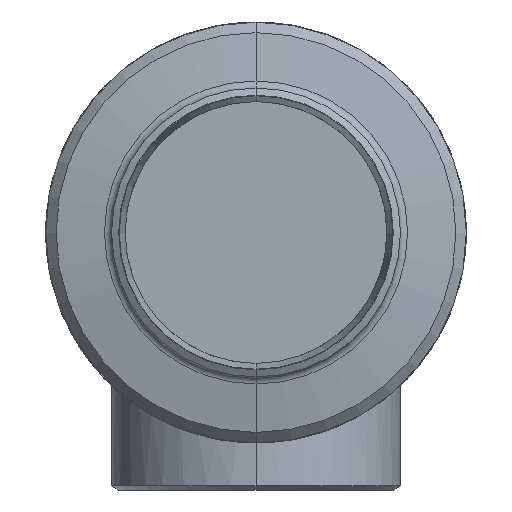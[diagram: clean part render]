
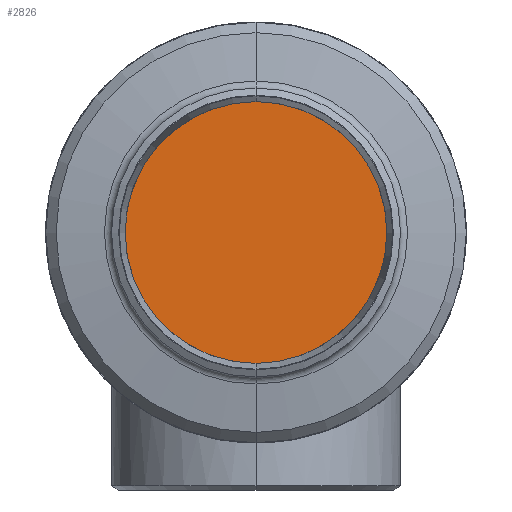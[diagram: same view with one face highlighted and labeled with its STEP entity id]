
A CAD part, front view. The second image highlights one B-rep face of the part: STEP entity #2826.
In plain terms, the highlighted planar face has unit normal (0, -1, 0) as drawn and (0, 0, 1) by its records, which use the part's own axes.
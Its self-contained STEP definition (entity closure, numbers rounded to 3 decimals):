
#5 = CIRCLE ( 'NONE', #6, 85. ) ;
#6 = AXIS2_PLACEMENT_3D ( 'NONE', #7, #8, #9 ) ;
#7 = CARTESIAN_POINT ( 'NONE',  ( 0., 0., 26. ) ) ;
#8 = DIRECTION ( 'NONE',  ( 0., 0., 1. ) ) ;
#9 = DIRECTION ( 'NONE',  ( 1., 0., 0. ) ) ;
#2327 = ORIENTED_EDGE ( 'NONE', *, *, #3799, .T. ) ;
#2358 = EDGE_LOOP ( 'NONE', ( #2327, #2566 ) ) ;
#2566 = ORIENTED_EDGE ( 'NONE', *, *, #2698, .T. ) ;
#2674 = VERTEX_POINT ( 'NONE', #4327 ) ;
#2690 = VERTEX_POINT ( 'NONE', #4578 ) ;
#2698 = EDGE_CURVE ( 'NONE', #2690, #2674, #5075, .T. ) ;
#2826 = ADVANCED_FACE ( 'NONE', ( #4788 ), #4791, .T. ) ;
#3799 = EDGE_CURVE ( 'NONE', #2674, #2690, #5, .T. ) ;
#4327 = CARTESIAN_POINT ( 'NONE',  ( -85., 0., 26. ) ) ;
#4578 = CARTESIAN_POINT ( 'NONE',  ( 85., 0., 26. ) ) ;
#4788 = FACE_OUTER_BOUND ( 'NONE', #2358, .T. ) ;
#4791 = PLANE ( 'NONE',  #4792 ) ;
#4792 = AXIS2_PLACEMENT_3D ( 'NONE', #4793, #4794, #4795 ) ;
#4793 = CARTESIAN_POINT ( 'NONE',  ( 0., 0., 26. ) ) ;
#4794 = DIRECTION ( 'NONE',  ( 0., 0., 1. ) ) ;
#4795 = DIRECTION ( 'NONE',  ( 1., 0., 0. ) ) ;
#5075 = CIRCLE ( 'NONE', #5076, 85. ) ;
#5076 = AXIS2_PLACEMENT_3D ( 'NONE', #5077, #5078, #5079 ) ;
#5077 = CARTESIAN_POINT ( 'NONE',  ( 0., 0., 26. ) ) ;
#5078 = DIRECTION ( 'NONE',  ( 0., 0., 1. ) ) ;
#5079 = DIRECTION ( 'NONE',  ( 1., 0., 0. ) ) ;
